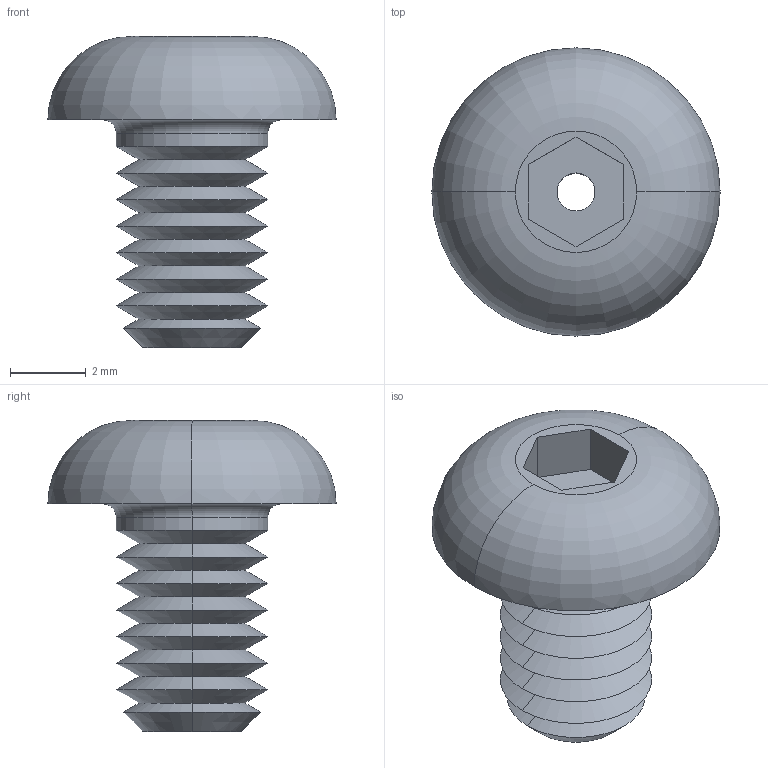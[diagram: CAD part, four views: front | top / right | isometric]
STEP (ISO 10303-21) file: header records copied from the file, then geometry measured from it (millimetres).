
FILE_DESCRIPTION (( 'STEP AP203' ), '1' );
FILE_NAME ('P0094.040-006-A2.step', '2019-07-12T16:51:54', ( '' ), ( '' ), 'SwSTEP 2.0', 'SolidWorks 2017', '' );
FILE_SCHEMA (( 'CONFIG_CONTROL_DESIGN' ));
Length unit declared in the file: millimetre
Products named in the file (1): P0094.040-006-A2
Bounding box: 7.6 x 7.6 x 8.2 mm (x, y, z)
Volume: 122.3 mm3; surface area: 258.5 mm2
Topology: 1 solids, 1 shells, 48 faces, 100 edges, 56 vertices
Faces by surface type: cone 30, plane 10, cylinder 4, torus 4
Entity records: 1337 total; most frequent: DIRECTION 246, CARTESIAN_POINT 205, ORIENTED_EDGE 200, EDGE_CURVE 100, AXIS2_PLACEMENT_3D 97, VERTEX_POINT 56, LINE 52, EDGE_LOOP 52
